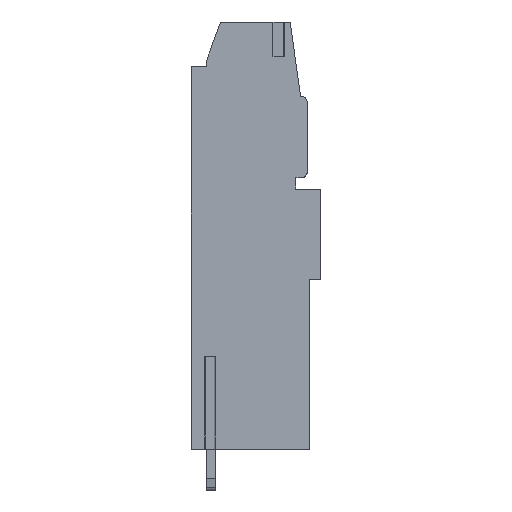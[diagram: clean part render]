
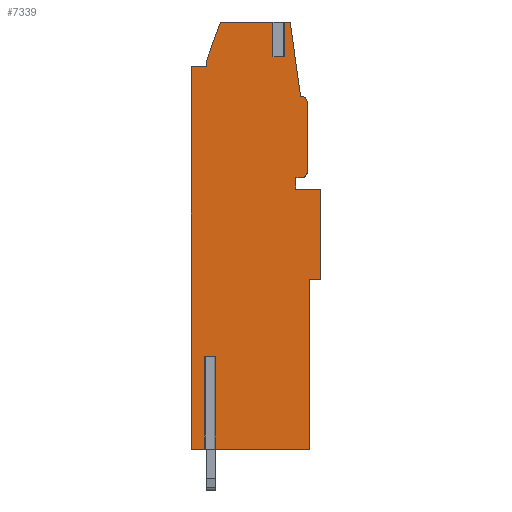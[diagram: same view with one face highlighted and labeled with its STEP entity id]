
A CAD part, top view. The second image highlights one B-rep face of the part: STEP entity #7339.
In plain terms, the highlighted planar face has unit normal (0, 0, 1).
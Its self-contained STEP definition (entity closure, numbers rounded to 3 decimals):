
#1=DIRECTION('',(-1.,0.,0.));
#2=VECTOR('',#1,0.898);
#3=CARTESIAN_POINT('',(2.049,8.,-0.5));
#4=LINE('',#3,#2);
#5=DIRECTION('',(-1.,0.,0.));
#6=VECTOR('',#5,1.151);
#7=CARTESIAN_POINT('',(1.151,0.,-0.5));
#8=LINE('',#7,#6);
#9=DIRECTION('',(0.,1.,0.));
#10=VECTOR('',#9,32.93);
#11=CARTESIAN_POINT('',(0.,0.,-0.5));
#12=LINE('',#11,#10);
#13=DIRECTION('',(0.,1.,0.));
#14=VECTOR('',#13,0.5);
#15=CARTESIAN_POINT('',(1.3,32.93,-0.5));
#16=LINE('',#15,#14);
#17=DIRECTION('',(0.342,0.94,0.));
#18=VECTOR('',#17,3.446);
#19=CARTESIAN_POINT('',(1.3,33.43,-0.5));
#20=LINE('',#19,#18);
#21=CARTESIAN_POINT('',(2.667,36.6,-0.5));
#22=DIRECTION('',(0.,0.,-1.));
#23=DIRECTION('',(-0.94,0.342,0.));
#24=AXIS2_PLACEMENT_3D('',#21,#22,#23);
#26=DIRECTION('',(1.,0.,0.));
#27=VECTOR('',#26,4.437);
#28=CARTESIAN_POINT('',(2.667,36.8,-0.5));
#29=LINE('',#28,#27);
#30=DIRECTION('',(1.,0.,0.));
#31=VECTOR('',#30,0.793);
#32=CARTESIAN_POINT('',(7.104,33.8,-0.5));
#33=LINE('',#32,#31);
#34=DIRECTION('',(1.,0.,0.));
#35=VECTOR('',#34,0.456);
#36=CARTESIAN_POINT('',(7.896,36.8,-0.5));
#37=LINE('',#36,#35);
#38=CARTESIAN_POINT('',(8.353,36.6,-0.5));
#39=DIRECTION('',(0.,0.,-1.));
#40=DIRECTION('',(0.,1.,0.));
#41=AXIS2_PLACEMENT_3D('',#38,#39,#40);
#43=DIRECTION('',(0.139,-0.99,0.));
#44=VECTOR('',#43,6.289);
#45=CARTESIAN_POINT('',(8.551,36.628,-0.5));
#46=LINE('',#45,#44);
#47=DIRECTION('',(1.,0.,0.));
#48=VECTOR('',#47,0.074);
#49=CARTESIAN_POINT('',(9.426,30.4,-0.5));
#50=LINE('',#49,#48);
#51=CARTESIAN_POINT('',(9.5,29.9,-0.5));
#52=DIRECTION('',(0.,0.,-1.));
#53=DIRECTION('',(0.,1.,0.));
#54=AXIS2_PLACEMENT_3D('',#51,#52,#53);
#56=DIRECTION('',(0.,-1.,0.));
#57=VECTOR('',#56,6.);
#58=CARTESIAN_POINT('',(10.,29.9,-0.5));
#59=LINE('',#58,#57);
#60=CARTESIAN_POINT('',(9.5,23.9,-0.5));
#61=DIRECTION('',(0.,0.,-1.));
#62=DIRECTION('',(1.,0.,0.));
#63=AXIS2_PLACEMENT_3D('',#60,#61,#62);
#65=DIRECTION('',(-1.,0.,0.));
#66=VECTOR('',#65,0.5);
#67=CARTESIAN_POINT('',(9.5,23.4,-0.5));
#68=LINE('',#67,#66);
#69=DIRECTION('',(0.,-1.,0.));
#70=VECTOR('',#69,1.);
#71=CARTESIAN_POINT('',(9.,23.4,-0.5));
#72=LINE('',#71,#70);
#73=DIRECTION('',(1.,0.,0.));
#74=VECTOR('',#73,2.16);
#75=CARTESIAN_POINT('',(9.,22.4,-0.5));
#76=LINE('',#75,#74);
#77=DIRECTION('',(0.,-1.,0.));
#78=VECTOR('',#77,7.8);
#79=CARTESIAN_POINT('',(11.16,22.4,-0.5));
#80=LINE('',#79,#78);
#81=DIRECTION('',(-1.,0.,0.));
#82=VECTOR('',#81,1.);
#83=CARTESIAN_POINT('',(11.16,14.6,-0.5));
#84=LINE('',#83,#82);
#85=DIRECTION('',(0.,-1.,0.));
#86=VECTOR('',#85,14.6);
#87=CARTESIAN_POINT('',(10.16,14.6,-0.5));
#88=LINE('',#87,#86);
#89=DIRECTION('',(-1.,0.,0.));
#90=VECTOR('',#89,8.111);
#91=CARTESIAN_POINT('',(10.16,0.,-0.5));
#92=LINE('',#91,#90);
#125=DIRECTION('',(0.,-1.,0.));
#126=VECTOR('',#125,8.);
#127=CARTESIAN_POINT('',(2.049,8.,-0.5));
#128=LINE('',#127,#126);
#790=DIRECTION('',(-1.,0.,0.));
#791=VECTOR('',#790,1.3);
#792=CARTESIAN_POINT('',(1.3,32.93,-0.5));
#793=LINE('',#792,#791);
#3006=DIRECTION('',(0.,-1.,0.));
#3007=VECTOR('',#3006,3.);
#3008=CARTESIAN_POINT('',(7.896,36.8,-0.5));
#3009=LINE('',#3008,#3007);
#3050=DIRECTION('',(0.,1.,0.));
#3051=VECTOR('',#3050,3.);
#3052=CARTESIAN_POINT('',(7.104,33.8,-0.5));
#3053=LINE('',#3052,#3051);
#5882=DIRECTION('',(0.,1.,0.));
#5883=VECTOR('',#5882,8.);
#5884=CARTESIAN_POINT('',(1.151,0.,-0.5));
#5885=LINE('',#5884,#5883);
#5910=CARTESIAN_POINT('',(2.049,8.,-0.5));
#5911=CARTESIAN_POINT('',(1.151,8.,-0.5));
#5912=VERTEX_POINT('',#5910);
#5913=VERTEX_POINT('',#5911);
#5914=CARTESIAN_POINT('',(1.151,0.,-0.5));
#5915=VERTEX_POINT('',#5914);
#5916=CARTESIAN_POINT('',(0.,0.,-0.5));
#5917=VERTEX_POINT('',#5916);
#5918=CARTESIAN_POINT('',(0.,32.93,-0.5));
#5919=VERTEX_POINT('',#5918);
#5920=CARTESIAN_POINT('',(1.3,32.93,-0.5));
#5921=VERTEX_POINT('',#5920);
#5922=CARTESIAN_POINT('',(1.3,33.43,-0.5));
#5923=VERTEX_POINT('',#5922);
#5924=CARTESIAN_POINT('',(2.479,36.668,-0.5));
#5925=VERTEX_POINT('',#5924);
#5926=CARTESIAN_POINT('',(2.667,36.8,-0.5));
#5927=VERTEX_POINT('',#5926);
#5928=CARTESIAN_POINT('',(7.104,36.8,-0.5));
#5929=VERTEX_POINT('',#5928);
#5930=CARTESIAN_POINT('',(7.104,33.8,-0.5));
#5931=VERTEX_POINT('',#5930);
#5932=CARTESIAN_POINT('',(7.896,33.8,-0.5));
#5933=VERTEX_POINT('',#5932);
#5934=CARTESIAN_POINT('',(7.896,36.8,-0.5));
#5935=VERTEX_POINT('',#5934);
#5936=CARTESIAN_POINT('',(8.353,36.8,-0.5));
#5937=VERTEX_POINT('',#5936);
#5938=CARTESIAN_POINT('',(8.551,36.628,-0.5));
#5939=VERTEX_POINT('',#5938);
#5940=CARTESIAN_POINT('',(9.426,30.4,-0.5));
#5941=VERTEX_POINT('',#5940);
#5942=CARTESIAN_POINT('',(9.5,30.4,-0.5));
#5943=VERTEX_POINT('',#5942);
#5944=CARTESIAN_POINT('',(10.,29.9,-0.5));
#5945=VERTEX_POINT('',#5944);
#5946=CARTESIAN_POINT('',(10.,23.9,-0.5));
#5947=VERTEX_POINT('',#5946);
#5948=CARTESIAN_POINT('',(9.5,23.4,-0.5));
#5949=VERTEX_POINT('',#5948);
#5950=CARTESIAN_POINT('',(9.,23.4,-0.5));
#5951=VERTEX_POINT('',#5950);
#5952=CARTESIAN_POINT('',(9.,22.4,-0.5));
#5953=VERTEX_POINT('',#5952);
#5954=CARTESIAN_POINT('',(11.16,22.4,-0.5));
#5955=VERTEX_POINT('',#5954);
#5956=CARTESIAN_POINT('',(11.16,14.6,-0.5));
#5957=VERTEX_POINT('',#5956);
#5958=CARTESIAN_POINT('',(10.16,14.6,-0.5));
#5959=VERTEX_POINT('',#5958);
#5960=CARTESIAN_POINT('',(10.16,0.,-0.5));
#5961=VERTEX_POINT('',#5960);
#5962=CARTESIAN_POINT('',(2.049,0.,-0.5));
#5963=VERTEX_POINT('',#5962);
#7278=CARTESIAN_POINT('',(5.3,0.,-0.5));
#7279=DIRECTION('',(0.,0.,1.));
#7280=DIRECTION('',(1.,0.,0.));
#7281=AXIS2_PLACEMENT_3D('',#7278,#7279,#7280);
#7282=PLANE('',#7281);
#7284=ORIENTED_EDGE('',*,*,#7283,.T.);
#7286=ORIENTED_EDGE('',*,*,#7285,.F.);
#7288=ORIENTED_EDGE('',*,*,#7287,.T.);
#7290=ORIENTED_EDGE('',*,*,#7289,.T.);
#7292=ORIENTED_EDGE('',*,*,#7291,.F.);
#7294=ORIENTED_EDGE('',*,*,#7293,.T.);
#7296=ORIENTED_EDGE('',*,*,#7295,.T.);
#7298=ORIENTED_EDGE('',*,*,#7297,.T.);
#7300=ORIENTED_EDGE('',*,*,#7299,.T.);
#7302=ORIENTED_EDGE('',*,*,#7301,.F.);
#7304=ORIENTED_EDGE('',*,*,#7303,.T.);
#7306=ORIENTED_EDGE('',*,*,#7305,.F.);
#7308=ORIENTED_EDGE('',*,*,#7307,.T.);
#7310=ORIENTED_EDGE('',*,*,#7309,.T.);
#7312=ORIENTED_EDGE('',*,*,#7311,.T.);
#7314=ORIENTED_EDGE('',*,*,#7313,.T.);
#7316=ORIENTED_EDGE('',*,*,#7315,.T.);
#7318=ORIENTED_EDGE('',*,*,#7317,.T.);
#7320=ORIENTED_EDGE('',*,*,#7319,.T.);
#7322=ORIENTED_EDGE('',*,*,#7321,.T.);
#7324=ORIENTED_EDGE('',*,*,#7323,.T.);
#7326=ORIENTED_EDGE('',*,*,#7325,.T.);
#7328=ORIENTED_EDGE('',*,*,#7327,.T.);
#7330=ORIENTED_EDGE('',*,*,#7329,.T.);
#7332=ORIENTED_EDGE('',*,*,#7331,.T.);
#7334=ORIENTED_EDGE('',*,*,#7333,.T.);
#7336=ORIENTED_EDGE('',*,*,#7335,.F.);
#7337=EDGE_LOOP('',(#7284,#7286,#7288,#7290,#7292,#7294,#7296,#7298,#7300,#7302,
#7304,#7306,#7308,#7310,#7312,#7314,#7316,#7318,#7320,#7322,#7324,#7326,#7328,
#7330,#7332,#7334,#7336));
#7338=FACE_OUTER_BOUND('',#7337,.F.);
#7339=ADVANCED_FACE('',(#7338),#7282,.T.);
#25=CIRCLE('',#24,0.2);
#42=CIRCLE('',#41,0.2);
#55=CIRCLE('',#54,0.5);
#64=CIRCLE('',#63,0.5);
#7283=EDGE_CURVE('',#5912,#5913,#4,.T.);
#7285=EDGE_CURVE('',#5915,#5913,#5885,.T.);
#7287=EDGE_CURVE('',#5915,#5917,#8,.T.);
#7289=EDGE_CURVE('',#5917,#5919,#12,.T.);
#7291=EDGE_CURVE('',#5921,#5919,#793,.T.);
#7293=EDGE_CURVE('',#5921,#5923,#16,.T.);
#7295=EDGE_CURVE('',#5923,#5925,#20,.T.);
#7297=EDGE_CURVE('',#5925,#5927,#25,.T.);
#7299=EDGE_CURVE('',#5927,#5929,#29,.T.);
#7301=EDGE_CURVE('',#5931,#5929,#3053,.T.);
#7303=EDGE_CURVE('',#5931,#5933,#33,.T.);
#7305=EDGE_CURVE('',#5935,#5933,#3009,.T.);
#7307=EDGE_CURVE('',#5935,#5937,#37,.T.);
#7309=EDGE_CURVE('',#5937,#5939,#42,.T.);
#7311=EDGE_CURVE('',#5939,#5941,#46,.T.);
#7313=EDGE_CURVE('',#5941,#5943,#50,.T.);
#7315=EDGE_CURVE('',#5943,#5945,#55,.T.);
#7317=EDGE_CURVE('',#5945,#5947,#59,.T.);
#7319=EDGE_CURVE('',#5947,#5949,#64,.T.);
#7321=EDGE_CURVE('',#5949,#5951,#68,.T.);
#7323=EDGE_CURVE('',#5951,#5953,#72,.T.);
#7325=EDGE_CURVE('',#5953,#5955,#76,.T.);
#7327=EDGE_CURVE('',#5955,#5957,#80,.T.);
#7329=EDGE_CURVE('',#5957,#5959,#84,.T.);
#7331=EDGE_CURVE('',#5959,#5961,#88,.T.);
#7333=EDGE_CURVE('',#5961,#5963,#92,.T.);
#7335=EDGE_CURVE('',#5912,#5963,#128,.T.);
